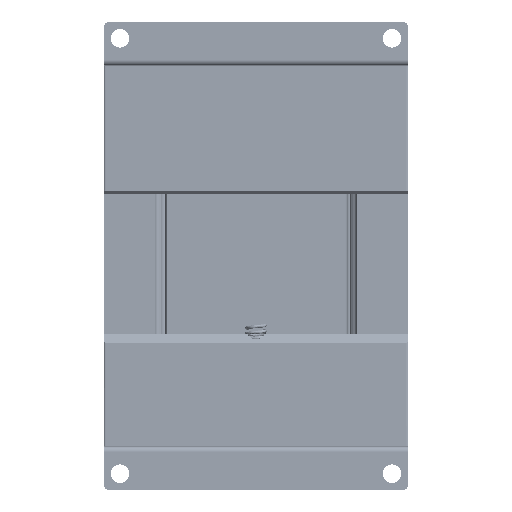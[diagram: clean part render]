
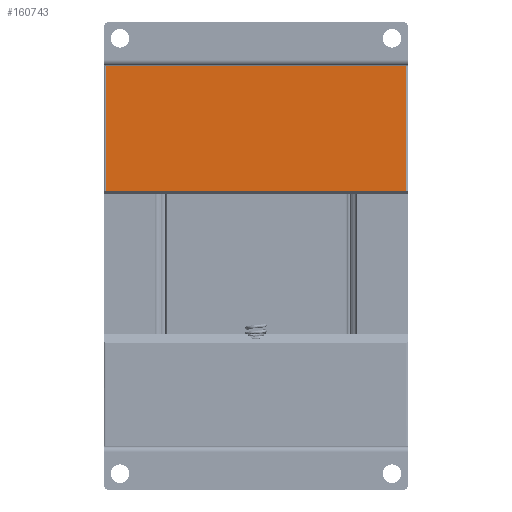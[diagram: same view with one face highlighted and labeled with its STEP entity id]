
A CAD part, front view. The second image highlights one B-rep face of the part: STEP entity #160743.
In plain terms, the highlighted planar face has unit normal (0, -1, 0).
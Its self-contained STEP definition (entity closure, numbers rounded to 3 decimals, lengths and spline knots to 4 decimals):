
#17797=FACE_OUTER_BOUND('',#26635,.T.);
#26635=EDGE_LOOP('',(#143887,#143888,#143889,#143890));
#44252=LINE('',#286305,#62022);
#44369=LINE('',#287115,#62139);
#44378=LINE('',#287134,#62148);
#44379=LINE('',#287136,#62149);
#62022=VECTOR('',#212801,0.3937);
#62139=VECTOR('',#213554,0.3937);
#62148=VECTOR('',#213575,0.3937);
#62149=VECTOR('',#213578,0.3937);
#76928=VERTEX_POINT('',#286302);
#76929=VERTEX_POINT('',#286304);
#77303=VERTEX_POINT('',#287112);
#77304=VERTEX_POINT('',#287114);
#99294=EDGE_CURVE('',#76928,#76929,#44252,.T.);
#99699=EDGE_CURVE('',#77304,#77303,#44369,.T.);
#99710=EDGE_CURVE('',#77304,#76928,#44378,.T.);
#99711=EDGE_CURVE('',#76929,#77303,#44379,.T.);
#143887=ORIENTED_EDGE('',*,*,#99699,.T.);
#143888=ORIENTED_EDGE('',*,*,#99711,.F.);
#143889=ORIENTED_EDGE('',*,*,#99294,.F.);
#143890=ORIENTED_EDGE('',*,*,#99710,.F.);
#152989=PLANE('',#173055);
#160743=ADVANCED_FACE('',(#17797),#152989,.T.);
#173055=AXIS2_PLACEMENT_3D('',#287135,#213576,#213577);
#212801=DIRECTION('',(1.,0.,0.));
#213554=DIRECTION('',(1.,0.,0.));
#213575=DIRECTION('',(0.,0.,1.));
#213576=DIRECTION('center_axis',(0.,-1.,0.));
#213577=DIRECTION('ref_axis',(1.,0.,0.));
#213578=DIRECTION('',(0.,0.,-1.));
#286302=CARTESIAN_POINT('',(0.02,0.,3.5));
#286304=CARTESIAN_POINT('',(2.78,0.,3.5));
#286305=CARTESIAN_POINT('',(0.,0.,3.5));
#287112=CARTESIAN_POINT('',(2.78,0.,2.351));
#287114=CARTESIAN_POINT('',(0.02,0.,2.351));
#287115=CARTESIAN_POINT('',(1.4,0.,2.351));
#287134=CARTESIAN_POINT('',(0.02,0.,0.));
#287135=CARTESIAN_POINT('Origin',(0.,0.,0.));
#287136=CARTESIAN_POINT('',(2.78,0.,0.));
